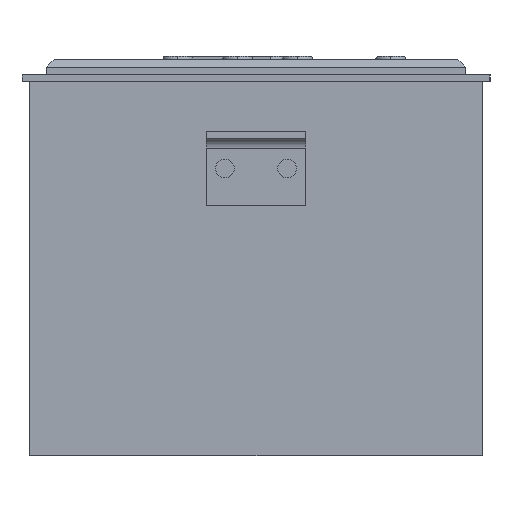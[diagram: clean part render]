
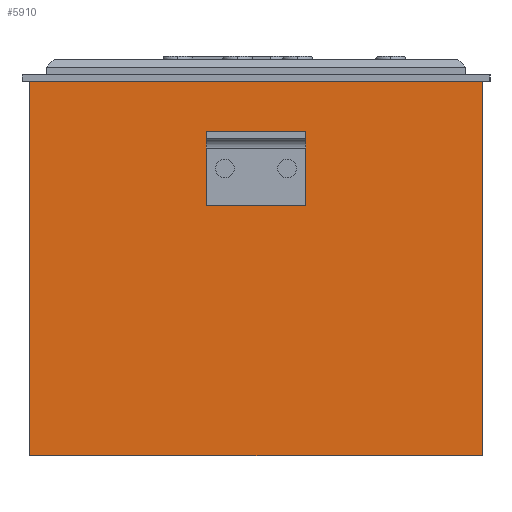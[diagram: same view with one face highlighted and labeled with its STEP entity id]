
A CAD part, left-side view. The second image highlights one B-rep face of the part: STEP entity #5910.
In plain terms, the highlighted planar face has unit normal (-1, 0, 0).
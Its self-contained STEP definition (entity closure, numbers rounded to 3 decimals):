
#188 = CARTESIAN_POINT ( 'NONE',  ( -90., 16., 20. ) ) ;
#330 = AXIS2_PLACEMENT_3D ( 'NONE', #4307, #11859, #6498 ) ;
#648 = DIRECTION ( 'NONE',  ( 0., 0., -1. ) ) ;
#743 = CARTESIAN_POINT ( 'NONE',  ( -90., 16., 20. ) ) ;
#823 = VECTOR ( 'NONE', #648, 1000. ) ;
#935 = VERTEX_POINT ( 'NONE', #188 ) ;
#966 = VERTEX_POINT ( 'NONE', #8178 ) ;
#1415 = VERTEX_POINT ( 'NONE', #2637 ) ;
#1508 = CARTESIAN_POINT ( 'NONE',  ( -90., 16., 44. ) ) ;
#1570 = EDGE_CURVE ( 'NONE', #966, #1415, #4605, .T. ) ;
#1777 = CARTESIAN_POINT ( 'NONE',  ( -90., -72.5, -60. ) ) ;
#2387 = EDGE_CURVE ( 'NONE', #935, #12608, #3529, .T. ) ;
#2431 = EDGE_CURVE ( 'NONE', #10017, #1415, #10942, .T. ) ;
#2637 = CARTESIAN_POINT ( 'NONE',  ( -90., -72.5, -60. ) ) ;
#2653 = VECTOR ( 'NONE', #9305, 1000. ) ;
#2983 = CARTESIAN_POINT ( 'NONE',  ( -90., 72.5, 60. ) ) ;
#3213 = FACE_OUTER_BOUND ( 'NONE', #11674, .T. ) ;
#3414 = EDGE_CURVE ( 'NONE', #7719, #12608, #7502, .T. ) ;
#3474 = ORIENTED_EDGE ( 'NONE', *, *, #2387, .F. ) ;
#3529 = LINE ( 'NONE', #10390, #11276 ) ;
#4279 = ORIENTED_EDGE ( 'NONE', *, *, #2431, .T. ) ;
#4307 = CARTESIAN_POINT ( 'NONE',  ( -90., -72.5, 60. ) ) ;
#4605 = LINE ( 'NONE', #10765, #6622 ) ;
#4902 = DIRECTION ( 'NONE',  ( 0., -1., 0. ) ) ;
#5066 = DIRECTION ( 'NONE',  ( 0., 0., -1. ) ) ;
#5097 = EDGE_LOOP ( 'NONE', ( #12032, #8468, #12372, #3474 ) ) ;
#5124 = VECTOR ( 'NONE', #4902, 1000. ) ;
#5627 = LINE ( 'NONE', #6956, #5124 ) ;
#5910 = ADVANCED_FACE ( 'NONE', ( #3213, #13876 ), #9665, .F. ) ;
#5948 = CARTESIAN_POINT ( 'NONE',  ( -90., -16., 20. ) ) ;
#6209 = LINE ( 'NONE', #743, #823 ) ;
#6354 = DIRECTION ( 'NONE',  ( 0., 0., -1. ) ) ;
#6498 = DIRECTION ( 'NONE',  ( 0., 0., -1. ) ) ;
#6525 = CARTESIAN_POINT ( 'NONE',  ( -90., -72.5, 60. ) ) ;
#6577 = CARTESIAN_POINT ( 'NONE',  ( -90., 72.5, -60. ) ) ;
#6599 = ORIENTED_EDGE ( 'NONE', *, *, #11437, .F. ) ;
#6622 = VECTOR ( 'NONE', #6354, 1000. ) ;
#6863 = VECTOR ( 'NONE', #11668, 1000. ) ;
#6956 = CARTESIAN_POINT ( 'NONE',  ( -90., 16., 44. ) ) ;
#7281 = CARTESIAN_POINT ( 'NONE',  ( -90., -16., 44. ) ) ;
#7502 = LINE ( 'NONE', #11550, #10057 ) ;
#7691 = LINE ( 'NONE', #2983, #6863 ) ;
#7719 = VERTEX_POINT ( 'NONE', #7281 ) ;
#7773 = EDGE_CURVE ( 'NONE', #10655, #10017, #7691, .T. ) ;
#8178 = CARTESIAN_POINT ( 'NONE',  ( -90., -72.5, 60. ) ) ;
#8468 = ORIENTED_EDGE ( 'NONE', *, *, #12224, .T. ) ;
#8505 = ORIENTED_EDGE ( 'NONE', *, *, #1570, .F. ) ;
#9007 = LINE ( 'NONE', #6525, #11920 ) ;
#9305 = DIRECTION ( 'NONE',  ( 0., -1., 0. ) ) ;
#9572 = CARTESIAN_POINT ( 'NONE',  ( -90., 72.5, 60. ) ) ;
#9665 = PLANE ( 'NONE',  #330 ) ;
#9782 = EDGE_CURVE ( 'NONE', #10285, #935, #6209, .T. ) ;
#10017 = VERTEX_POINT ( 'NONE', #6577 ) ;
#10057 = VECTOR ( 'NONE', #5066, 1000. ) ;
#10285 = VERTEX_POINT ( 'NONE', #1508 ) ;
#10337 = DIRECTION ( 'NONE',  ( 0., -1., 0. ) ) ;
#10390 = CARTESIAN_POINT ( 'NONE',  ( -90., 16., 20. ) ) ;
#10655 = VERTEX_POINT ( 'NONE', #9572 ) ;
#10765 = CARTESIAN_POINT ( 'NONE',  ( -90., -72.5, 60. ) ) ;
#10923 = DIRECTION ( 'NONE',  ( 0., -1., 0. ) ) ;
#10942 = LINE ( 'NONE', #1777, #2653 ) ;
#11276 = VECTOR ( 'NONE', #10337, 1000. ) ;
#11437 = EDGE_CURVE ( 'NONE', #10655, #966, #9007, .T. ) ;
#11550 = CARTESIAN_POINT ( 'NONE',  ( -90., -16., 20. ) ) ;
#11668 = DIRECTION ( 'NONE',  ( 0., 0., -1. ) ) ;
#11674 = EDGE_LOOP ( 'NONE', ( #4279, #8505, #6599, #13309 ) ) ;
#11859 = DIRECTION ( 'NONE',  ( 1., 0., 0. ) ) ;
#11920 = VECTOR ( 'NONE', #10923, 1000. ) ;
#12032 = ORIENTED_EDGE ( 'NONE', *, *, #9782, .F. ) ;
#12224 = EDGE_CURVE ( 'NONE', #10285, #7719, #5627, .T. ) ;
#12372 = ORIENTED_EDGE ( 'NONE', *, *, #3414, .T. ) ;
#12608 = VERTEX_POINT ( 'NONE', #5948 ) ;
#13309 = ORIENTED_EDGE ( 'NONE', *, *, #7773, .T. ) ;
#13876 = FACE_BOUND ( 'NONE', #5097, .T. ) ;
